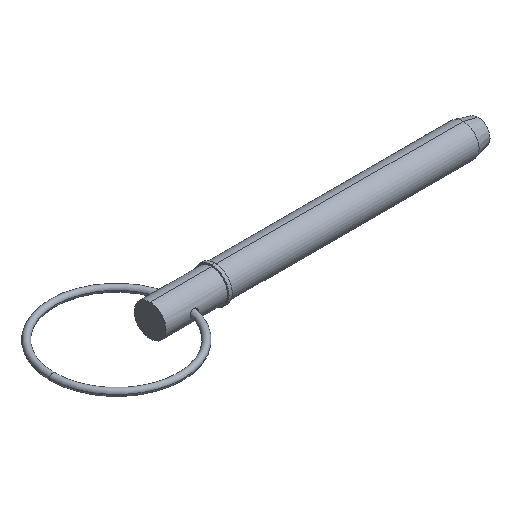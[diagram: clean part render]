
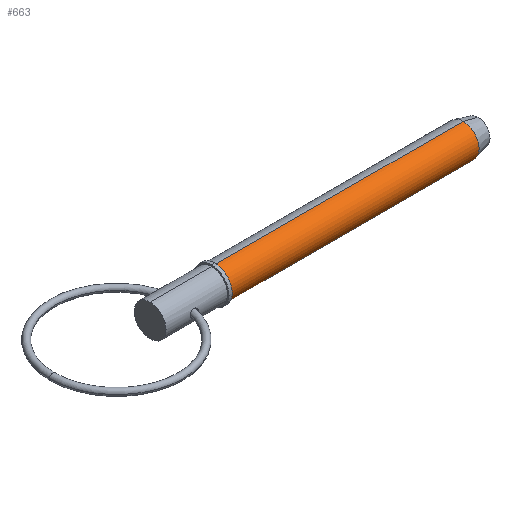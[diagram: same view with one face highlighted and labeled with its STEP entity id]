
A CAD part, isometric view. The second image highlights one B-rep face of the part: STEP entity #663.
In plain terms, the highlighted cylindrical face has radius 6.35 mm (diameter 12.7 mm), a partial arc.
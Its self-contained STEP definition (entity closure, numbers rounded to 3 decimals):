
#17 = VERTEX_POINT ( 'NONE', #1011 ) ;
#43 = EDGE_CURVE ( 'NONE', #616, #526, #1040, .T. ) ;
#58 = AXIS2_PLACEMENT_3D ( 'NONE', #564, #394, #165 ) ;
#73 = EDGE_LOOP ( 'NONE', ( #620, #643, #821, #1051 ) ) ;
#104 = LINE ( 'NONE', #510, #707 ) ;
#108 = CARTESIAN_POINT ( 'NONE',  ( 124.555, 0., 6.35 ) ) ;
#115 = VERTEX_POINT ( 'NONE', #964 ) ;
#117 = CYLINDRICAL_SURFACE ( 'NONE', #939, 6.35 ) ;
#125 = DIRECTION ( 'NONE',  ( 0., 0., -1. ) ) ;
#165 = DIRECTION ( 'NONE',  ( 0., 0., -1. ) ) ;
#166 = EDGE_CURVE ( 'NONE', #115, #526, #104, .T. ) ;
#259 = CARTESIAN_POINT ( 'NONE',  ( 124.555, 0., -6.35 ) ) ;
#355 = VECTOR ( 'NONE', #506, 1000. ) ;
#394 = DIRECTION ( 'NONE',  ( 1., 0., 0. ) ) ;
#446 = CARTESIAN_POINT ( 'NONE',  ( 0., 0., 0. ) ) ;
#506 = DIRECTION ( 'NONE',  ( 1., 0., 0. ) ) ;
#510 = CARTESIAN_POINT ( 'NONE',  ( 0., 0., -6.35 ) ) ;
#523 = FACE_OUTER_BOUND ( 'NONE', #73, .T. ) ;
#526 = VERTEX_POINT ( 'NONE', #259 ) ;
#564 = CARTESIAN_POINT ( 'NONE',  ( 25.7, 0., 0. ) ) ;
#587 = DIRECTION ( 'NONE',  ( 0., 0., -1. ) ) ;
#590 = DIRECTION ( 'NONE',  ( 1., 0., 0. ) ) ;
#591 = LINE ( 'NONE', #905, #355 ) ;
#595 = CIRCLE ( 'NONE', #58, 6.35 ) ;
#616 = VERTEX_POINT ( 'NONE', #108 ) ;
#620 = ORIENTED_EDGE ( 'NONE', *, *, #799, .F. ) ;
#643 = ORIENTED_EDGE ( 'NONE', *, *, #972, .T. ) ;
#663 = ADVANCED_FACE ( 'NONE', ( #523 ), #117, .T. ) ;
#679 = AXIS2_PLACEMENT_3D ( 'NONE', #775, #1016, #125 ) ;
#707 = VECTOR ( 'NONE', #590, 1000. ) ;
#775 = CARTESIAN_POINT ( 'NONE',  ( 124.555, 0., 0. ) ) ;
#799 = EDGE_CURVE ( 'NONE', #17, #616, #591, .T. ) ;
#821 = ORIENTED_EDGE ( 'NONE', *, *, #166, .T. ) ;
#905 = CARTESIAN_POINT ( 'NONE',  ( 0., 0., 6.35 ) ) ;
#939 = AXIS2_PLACEMENT_3D ( 'NONE', #446, #994, #587 ) ;
#964 = CARTESIAN_POINT ( 'NONE',  ( 25.7, 0., -6.35 ) ) ;
#972 = EDGE_CURVE ( 'NONE', #17, #115, #595, .T. ) ;
#994 = DIRECTION ( 'NONE',  ( 1., 0., 0. ) ) ;
#1011 = CARTESIAN_POINT ( 'NONE',  ( 25.7, 0., 6.35 ) ) ;
#1016 = DIRECTION ( 'NONE',  ( 1., 0., 0. ) ) ;
#1040 = CIRCLE ( 'NONE', #679, 6.35 ) ;
#1051 = ORIENTED_EDGE ( 'NONE', *, *, #43, .F. ) ;
